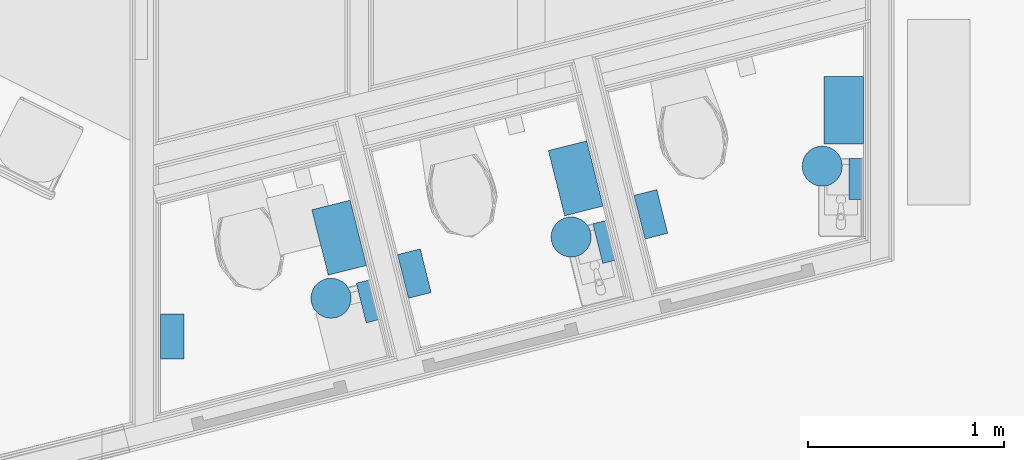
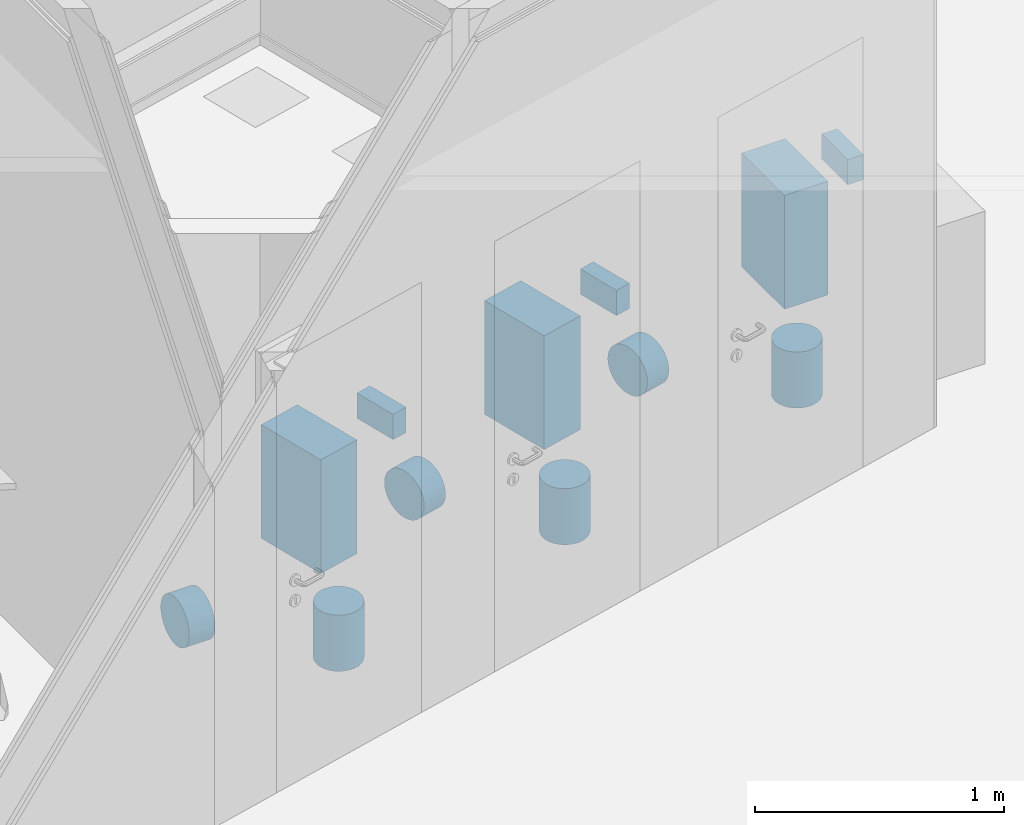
# One storey, part 10 of 153: 12 discrete accessories.
"""IFC2X3 building model written with IfcOpenShell, lengths in millimetres."""

from ifc_helpers import new_model, entity, si_unit, converted_unit, derived_unit, money_unit, direction, frame, origin_with_axes, place, context, subcontext, project, spatial, faceted_brep, source, transform, mapped, type_object, element, save


model = new_model("IFC2X3")

# Units and contexts
model_context = context("Model", 3, precision=0.01, world=origin_with_axes(), true_north=direction((0.0, 1.0)))
body_context = subcontext(model_context, "Body", "Model", "MODEL_VIEW")
ifc_project = project(units=[si_unit("LENGTHUNIT", "METRE", prefix="MILLI"), si_unit("AREAUNIT", "SQUARE_METRE"), si_unit("VOLUMEUNIT", "CUBIC_METRE"), converted_unit("PLANEANGLEUNIT", "DEGREE", entity("IfcPlaneAngleMeasure", 0.0174532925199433), si_unit("PLANEANGLEUNIT", "RADIAN"), dimensions=[0, 0, 0, 0, 0, 0, 0]), money_unit("EUR"), converted_unit("TIMEUNIT", "Year", entity("IfcTimeMeasure", 31557600.0), si_unit("TIMEUNIT", "SECOND"), dimensions=[0, 0, 1, 0, 0, 0, 0]), si_unit("MASSUNIT", "GRAM", prefix="KILO"), si_unit("THERMODYNAMICTEMPERATUREUNIT", "DEGREE_CELSIUS"), si_unit("LUMINOUSINTENSITYUNIT", "LUMEN"), si_unit("ENERGYUNIT", "JOULE", prefix="MEGA"), derived_unit("THERMALCONDUCTANCEUNIT", [(si_unit("POWERUNIT", "WATT"), 1), (si_unit("LENGTHUNIT", "METRE"), -1), (si_unit("THERMODYNAMICTEMPERATUREUNIT", "KELVIN"), -1)]), derived_unit("SPECIFICHEATCAPACITYUNIT", [(si_unit("ENERGYUNIT", "JOULE"), 1), (si_unit("MASSUNIT", "GRAM", prefix="KILO"), -1), (si_unit("THERMODYNAMICTEMPERATUREUNIT", "KELVIN"), -1)]), derived_unit("MASSDENSITYUNIT", [(si_unit("MASSUNIT", "GRAM", prefix="KILO"), 1), (si_unit("VOLUMEUNIT", "CUBIC_METRE"), -1)])], contexts=[model_context])

# Site, building, storey
site_placement = place(None, frame((0.0, 0.0, 8650.0), z_axis=(0.0, 0.0, 1.0), x_axis=(1.0, 0.0, 0.0)))
site = spatial("IfcSite", under=ifc_project, at=site_placement, Name="43301:001:0844", CompositionType="ELEMENT")
building_placement = place(site_placement, origin_with_axes())
building = spatial("IfcBuilding", under=site, at=building_placement, Name="Kuressaare Ametikooli tuulikute mehaanikute õppekorpus", CompositionType="ELEMENT")
storey_placement = place(building_placement, frame((0.0, 0.0, 4100.0), z_axis=(0.0, 0.0, 1.0), x_axis=(1.0, 0.0, 0.0)))
storey = spatial("IfcBuildingStorey", under=building, at=storey_placement, Name="2.korrus", CompositionType="ELEMENT", Elevation=4100.0)

# Discrete accessories
discrete_accessory_type_1 = type_object("IfcDiscreteAccessoryType", Name="Cube 27")
shared_shape_1 = source(origin_with_axes(), body_context, "Body", "Brep", [
    faceted_brep([(-344.0, 0.0, 0.0), (-344.0, 202.0, 0.0), (0.0, 202.0, 0.0), (0.0, 0.0, 0.0), (-344.0, 0.0, 557.0), (-344.0, 202.0, 557.0), (0.0, 202.0, 557.0), (0.0, 0.0, 557.0)], [[[0, 1, 2, 3]], [[0, 4, 5, 1]], [[1, 5, 6, 2]], [[2, 6, 7, 3]], [[3, 7, 4, 0]], [[7, 6, 5, 4]]]),
])
for number, where, z_axis, x_axis, name in (
    (1, (100912.2433961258, 21234.44962356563, 339.9999999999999), (0.0, 0.0, 1.0), (-0.243123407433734, 0.9699953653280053, 0.0), "EK"),
    (2, (103536.9523930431, 21866.98235073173, 339.9999999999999), (0.0, 0.0, 1.0), (7.304047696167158e-07, 0.9999999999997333, 0.0), "EK"),
    (3, (102121.8277628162, 21537.62454926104, 339.9999999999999), (0.0, 0.0, 1.0), (-0.243123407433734, 0.9699953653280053, 0.0), "EK"),
):
    element("IfcDiscreteAccessory", number, at=place(storey_placement, frame(where, z_axis=z_axis, x_axis=x_axis)), inside=storey, type_object=discrete_accessory_type_1, Name=name, context=body_context, shape_type="MappedRepresentation", body=[
        mapped(shared_shape_1, transform((0.0, 0.0, 0.0))),
    ])
discrete_accessory_type_2 = type_object("IfcDiscreteAccessoryType", Name="Cylinder 27")
shared_shape_2 = source(origin_with_axes(), body_context, "Body", "Brep", [
    faceted_brep([(0.0, -19.96954043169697, -113.2528915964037), (0.0, 0.0, -115.0), (120.0, 0.0, -115.0), (120.0, -19.96954043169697, -113.2528915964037), (0.0, -39.33231648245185, -108.0646513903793), (0.0, -57.49999999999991, -99.59292143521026), (0.0, -73.92057511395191, -88.0951109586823), (0.0, -88.09511095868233, -73.92057511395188), (0.0, -99.59292143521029, -57.49999999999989), (0.0, -108.0646513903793, -39.33231648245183), (0.0, -113.2528915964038, -19.96954043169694), (0.0, -114.9999999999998, 0.0), (0.0, -113.2528915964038, 19.96954043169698), (0.0, -108.0646513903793, 39.33231648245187), (0.0, -99.59292143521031, 57.49999999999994), (0.0, -88.09511095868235, 73.92057511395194), (0.0, -73.92057511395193, 88.09511095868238), (0.0, -57.49999999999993, 99.59292143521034), (0.0, -39.33231648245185, 108.0646513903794), (0.0, -19.96954043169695, 113.2528915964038), (0.0, 0.0, 114.9999999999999), (0.0, 19.969540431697, 113.2528915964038), (0.0, 39.33231648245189, 108.0646513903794), (0.0, 57.49999999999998, 99.59292143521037), (0.0, 73.92057511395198, 88.09511095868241), (0.0, 88.09511095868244, 73.92057511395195), (0.0, 99.5929214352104, 57.49999999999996), (0.0, 108.0646513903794, 39.33231648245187), (0.0, 113.2528915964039, 19.96954043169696), (0.0, 114.9999999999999, 0.0), (0.0, 113.2528915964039, -19.969540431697), (0.0, 108.0646513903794, -39.33231648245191), (0.0, 99.59292143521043, -57.5), (0.0, 88.09511095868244, -73.92057511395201), (0.0, 73.920575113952, -88.09511095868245), (0.0, 57.49999999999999, -99.59292143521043), (0.0, 39.33231648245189, -108.0646513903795), (0.0, 19.96954043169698, -113.2528915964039), (120.0, 19.96954043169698, -113.2528915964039), (120.0, 39.33231648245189, -108.0646513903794), (120.0, 57.49999999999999, -99.59292143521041), (120.0, 73.920575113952, -88.09511095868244), (120.0, 88.09511095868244, -73.920575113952), (120.0, 99.59292143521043, -57.49999999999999), (120.0, 108.0646513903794, -39.3323164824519), (120.0, 113.2528915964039, -19.96954043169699), (120.0, 114.9999999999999, 0.0), (120.0, 113.2528915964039, 19.96954043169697), (120.0, 108.0646513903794, 39.33231648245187), (120.0, 99.5929214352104, 57.49999999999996), (120.0, 88.09511095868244, 73.92057511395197), (120.0, 73.92057511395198, 88.09511095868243), (120.0, 57.49999999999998, 99.59292143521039), (120.0, 39.33231648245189, 108.0646513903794), (120.0, 19.969540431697, 113.2528915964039), (120.0, 0.0, 114.9999999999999), (120.0, -19.96954043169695, 113.2528915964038), (120.0, -39.33231648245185, 108.0646513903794), (120.0, -57.49999999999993, 99.59292143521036), (120.0, -73.92057511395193, 88.0951109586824), (120.0, -88.09511095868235, 73.92057511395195), (120.0, -99.59292143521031, 57.49999999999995), (120.0, -108.0646513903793, 39.33231648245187), (120.0, -113.2528915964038, 19.96954043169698), (120.0, -114.9999999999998, 0.0), (120.0, -113.2528915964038, -19.96954043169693), (120.0, -108.0646513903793, -39.33231648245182), (120.0, -99.59292143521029, -57.49999999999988), (120.0, -88.09511095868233, -73.92057511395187), (120.0, -73.92057511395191, -88.09511095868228), (120.0, -57.49999999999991, -99.59292143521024), (120.0, -39.33231648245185, -108.0646513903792)], [[[0, 1, 2, 3]], [[0, 4, 5, 6, 7, 8, 9, 10, 11, 12, 13, 14, 15, 16, 17, 18, 19, 20, 21, 22, 23, 24, 25, 26, 27, 28, 29, 30, 31, 32, 33, 34, 35, 36, 37, 1]], [[1, 37, 38, 2]], [[3, 2, 38, 39, 40, 41, 42, 43, 44, 45, 46, 47, 48, 49, 50, 51, 52, 53, 54, 55, 56, 57, 58, 59, 60, 61, 62, 63, 64, 65, 66, 67, 68, 69, 70, 71]], [[4, 0, 3, 71]], [[5, 4, 71, 70]], [[6, 5, 70, 69]], [[7, 6, 69, 68]], [[8, 7, 68, 67]], [[9, 8, 67, 66]], [[10, 9, 66, 65]], [[11, 10, 65, 64]], [[12, 11, 64, 63]], [[13, 12, 63, 62]], [[14, 13, 62, 61]], [[15, 14, 61, 60]], [[16, 15, 60, 59]], [[17, 16, 59, 58]], [[18, 17, 58, 57]], [[19, 18, 57, 56]], [[20, 19, 56, 55]], [[21, 20, 55, 54]], [[22, 21, 54, 53]], [[23, 22, 53, 52]], [[24, 23, 52, 51]], [[25, 24, 51, 50]], [[26, 25, 50, 49]], [[27, 26, 49, 48]], [[28, 27, 48, 47]], [[29, 28, 47, 46]], [[30, 29, 46, 45]], [[31, 30, 45, 44]], [[32, 31, 44, 43]], [[33, 32, 43, 42]], [[34, 33, 42, 41]], [[35, 34, 41, 40]], [[36, 35, 40, 39]], [[37, 36, 39, 38]]]),
])
for number, where, z_axis, x_axis in (
    (4, (102508.1550251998, 21176.75446139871, 599.9999999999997), (0.0, 0.0, 1.0), (-0.9699953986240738, -0.2431232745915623, 0.0)),
    (5, (101298.5710284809, 20873.57886838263, 599.9999999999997), (0.0, 0.0, 1.0), (-0.9699953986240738, -0.2431232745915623, 0.0)),
    (6, (100062.6183038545, 20537.27505729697, 599.9999999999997), (0.0, 0.0, 1.0), (-0.999999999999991, 1.339727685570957e-07, 0.0)),
):
    element("IfcDiscreteAccessory", number, at=place(storey_placement, frame(where, z_axis=z_axis, x_axis=x_axis)), inside=storey, type_object=discrete_accessory_type_2, Name="WCP", context=body_context, shape_type="MappedRepresentation", body=[
        mapped(shared_shape_2, transform((0.0, 0.0, 0.0))),
    ])
shared_shape_3 = source(origin_with_axes(), body_context, "Body", "Brep", [
    faceted_brep([(-209.0, 0.0, 0.0), (-209.0, 73.0, 0.0), (0.0, 73.0, 0.0), (0.0, 0.0, 0.0), (-209.0, 0.0, 124.0), (-209.0, 73.0, 124.0), (0.0, 73.0, 124.0), (0.0, 0.0, 124.0)], [[[0, 1, 2, 3]], [[0, 4, 5, 1]], [[1, 5, 6, 2]], [[2, 6, 7, 3]], [[3, 7, 4, 0]], [[7, 6, 5, 4]]]),
])
for number, where, z_axis, x_axis, name in (
    (7, (100994.1152343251, 20607.544525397, 1076.0), (0.0, 0.0, 1.0), (0.2431234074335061, -0.9699953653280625, 0.0), "SD"),
    (8, (102203.699694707, 20910.71930260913, 1076.0), (0.0, 0.0, 1.0), (0.2431234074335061, -0.9699953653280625, 0.0), "SD"),
    (9, (103463.9521417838, 21238.98218392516, 1076.0), (0.0, 0.0, 1.0), (0.0, -1.0, 0.0), "SD"),
):
    element("IfcDiscreteAccessory", number, at=place(storey_placement, frame(where, z_axis=z_axis, x_axis=x_axis)), inside=storey, type_object=discrete_accessory_type_1, Name=name, context=body_context, shape_type="MappedRepresentation", body=[
        mapped(shared_shape_3, transform((0.0, 0.0, 0.0))),
    ])
shared_shape_4 = source(origin_with_axes(), body_context, "Body", "Brep", [
    faceted_brep([(-100.9427946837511, -17.79893821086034, 0.0), (-100.9427946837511, -17.79893821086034, 275.0), (-102.5, 0.0, 275.0), (-102.5, 0.0, 0.0), (-96.31849363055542, -35.05706469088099, 0.0), (-96.31849363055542, -35.05706469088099, 275.0), (-88.76760388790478, -51.24999999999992, 275.0), (-78.5195554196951, -65.88572999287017, 275.0), (-65.88572999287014, -78.51955541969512, 275.0), (-51.24999999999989, -88.76760388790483, 275.0), (-35.05706469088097, -96.31849363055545, 275.0), (-17.79893821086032, -100.9427946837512, 275.0), (0.0, -102.4999999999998, 275.0), (17.79893821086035, -100.9427946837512, 275.0), (35.05706469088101, -96.31849363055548, 275.0), (51.24999999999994, -88.76760388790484, 275.0), (65.88572999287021, -78.51955541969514, 275.0), (78.51955541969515, -65.8857299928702, 275.0), (88.76760388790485, -51.24999999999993, 275.0), (96.31849363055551, -35.05706469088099, 275.0), (100.9427946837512, -17.79893821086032, 275.0), (102.4999999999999, 0.0, 275.0), (100.9427946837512, 17.79893821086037, 275.0), (96.31849363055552, 35.05706469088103, 275.0), (88.76760388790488, 51.24999999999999, 275.0), (78.51955541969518, 65.88572999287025, 275.0), (65.88572999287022, 78.51955541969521, 275.0), (51.24999999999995, 88.7676038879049, 275.0), (35.05706469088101, 96.31849363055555, 275.0), (17.79893821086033, 100.9427946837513, 275.0), (0.0, 102.5, 275.0), (-17.79893821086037, 100.9427946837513, 275.0), (-35.05706469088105, 96.31849363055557, 275.0), (-51.25, 88.76760388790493, 275.0), (-65.88572999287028, 78.51955541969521, 275.0), (-78.51955541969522, 65.88572999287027, 275.0), (-88.76760388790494, 51.24999999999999, 275.0), (-96.31849363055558, 35.05706469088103, 275.0), (-100.9427946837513, 17.79893821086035, 275.0), (-100.9427946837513, 17.79893821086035, 0.0), (-96.31849363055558, 35.05706469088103, 0.0), (-88.76760388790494, 51.24999999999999, 0.0), (-78.51955541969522, 65.88572999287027, 0.0), (-65.88572999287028, 78.51955541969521, 0.0), (-51.25, 88.76760388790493, 0.0), (-35.05706469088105, 96.31849363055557, 0.0), (-17.79893821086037, 100.9427946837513, 0.0), (0.0, 102.5, 0.0), (17.79893821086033, 100.9427946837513, 0.0), (35.05706469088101, 96.31849363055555, 0.0), (51.24999999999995, 88.7676038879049, 0.0), (65.88572999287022, 78.51955541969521, 0.0), (78.51955541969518, 65.88572999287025, 0.0), (88.76760388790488, 51.24999999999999, 0.0), (96.31849363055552, 35.05706469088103, 0.0), (100.9427946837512, 17.79893821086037, 0.0), (102.4999999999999, 0.0, 0.0), (100.9427946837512, -17.79893821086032, 0.0), (96.31849363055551, -35.05706469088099, 0.0), (88.76760388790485, -51.24999999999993, 0.0), (78.51955541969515, -65.8857299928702, 0.0), (65.88572999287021, -78.51955541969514, 0.0), (51.24999999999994, -88.76760388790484, 0.0), (35.05706469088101, -96.31849363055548, 0.0), (17.79893821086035, -100.9427946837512, 0.0), (0.0, -102.4999999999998, 0.0), (-17.79893821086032, -100.9427946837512, 0.0), (-35.05706469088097, -96.31849363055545, 0.0), (-51.24999999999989, -88.76760388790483, 0.0), (-65.88572999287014, -78.51955541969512, 0.0), (-78.5195554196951, -65.88572999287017, 0.0), (-88.76760388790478, -51.24999999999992, 0.0)], [[[0, 1, 2, 3]], [[4, 5, 1, 0]], [[1, 5, 6, 7, 8, 9, 10, 11, 12, 13, 14, 15, 16, 17, 18, 19, 20, 21, 22, 23, 24, 25, 26, 27, 28, 29, 30, 31, 32, 33, 34, 35, 36, 37, 38, 2]], [[3, 2, 38, 39]], [[0, 3, 39, 40, 41, 42, 43, 44, 45, 46, 47, 48, 49, 50, 51, 52, 53, 54, 55, 56, 57, 58, 59, 60, 61, 62, 63, 64, 65, 66, 67, 68, 69, 70, 71, 4]], [[71, 6, 5, 4]], [[70, 7, 6, 71]], [[69, 8, 7, 70]], [[68, 9, 8, 69]], [[67, 10, 9, 68]], [[66, 11, 10, 67]], [[65, 12, 11, 66]], [[64, 13, 12, 65]], [[63, 14, 13, 64]], [[62, 15, 14, 63]], [[61, 16, 15, 62]], [[60, 17, 16, 61]], [[59, 18, 17, 60]], [[58, 19, 18, 59]], [[57, 20, 19, 58]], [[56, 21, 20, 57]], [[55, 22, 21, 56]], [[54, 23, 22, 55]], [[53, 24, 23, 54]], [[52, 25, 24, 53]], [[51, 26, 25, 52]], [[50, 27, 26, 51]], [[49, 28, 27, 50]], [[48, 29, 28, 49]], [[47, 30, 29, 48]], [[46, 31, 30, 47]], [[45, 32, 31, 46]], [[44, 33, 32, 45]], [[43, 34, 33, 44]], [[42, 35, 34, 43]], [[41, 36, 35, 42]], [[40, 37, 36, 41]], [[39, 38, 37, 40]]]),
])
for number, where, z_axis, x_axis, name in (
    (10, (100814.3140407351, 20732.94711871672, 0.0), (0.0, 0.0, 1.0), (-1.0, 0.0, 0.0), "PR3"),
    (11, (103326.3801753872, 21408.30825093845, 0.0), (0.0, 0.0, 1.0), (-1.0, 0.0, 0.0), "PR3"),
    (12, (102042.2378319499, 21046.1789193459, 0.0), (0.0, 0.0, 1.0), (-1.0, 0.0, 0.0), "PR3"),
):
    element("IfcDiscreteAccessory", number, at=place(storey_placement, frame(where, z_axis=z_axis, x_axis=x_axis)), inside=storey, type_object=discrete_accessory_type_2, Name=name, context=body_context, shape_type="MappedRepresentation", body=[
        mapped(shared_shape_4, transform((0.0, 0.0, 0.0))),
    ])

save(model, "model.ifc")
